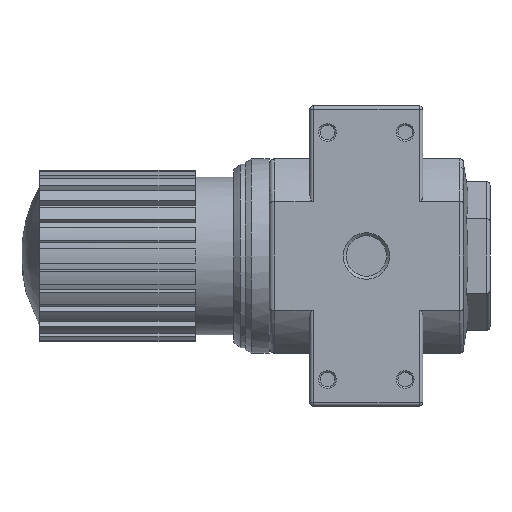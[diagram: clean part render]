
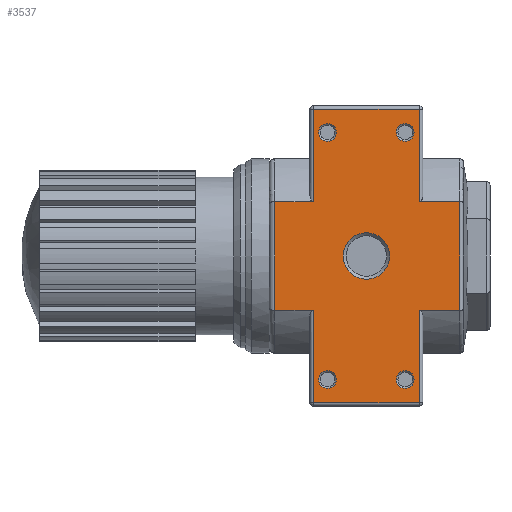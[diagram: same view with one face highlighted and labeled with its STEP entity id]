
A CAD part, left-side view. The second image highlights one B-rep face of the part: STEP entity #3537.
In plain terms, the highlighted planar face has unit normal (-1, 0, 0).
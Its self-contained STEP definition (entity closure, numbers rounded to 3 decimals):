
#55=FACE_BOUND('',#1024,.T.);
#56=FACE_BOUND('',#1025,.T.);
#57=FACE_BOUND('',#1026,.T.);
#58=FACE_BOUND('',#1027,.T.);
#59=FACE_BOUND('',#1028,.T.);
#118=LINE('',#5472,#427);
#119=LINE('',#5477,#428);
#122=LINE('',#5528,#431);
#123=LINE('',#5557,#432);
#124=LINE('',#5560,#433);
#126=LINE('',#5568,#435);
#127=LINE('',#5570,#436);
#128=LINE('',#5571,#437);
#129=LINE('',#5572,#438);
#130=LINE('',#5574,#439);
#131=LINE('',#5576,#440);
#132=LINE('',#5577,#441);
#427=VECTOR('',#4271,1000.);
#428=VECTOR('',#4276,1000.);
#431=VECTOR('',#4291,1000.);
#432=VECTOR('',#4296,1000.);
#433=VECTOR('',#4301,1000.);
#435=VECTOR('',#4309,1000.);
#436=VECTOR('',#4310,1000.);
#437=VECTOR('',#4311,1000.);
#438=VECTOR('',#4312,1000.);
#439=VECTOR('',#4313,1000.);
#440=VECTOR('',#4314,1000.);
#441=VECTOR('',#4315,1000.);
#805=FACE_OUTER_BOUND('',#1023,.T.);
#1023=EDGE_LOOP('',(#2396,#2397,#2398,#2399,#2400,#2401,#2402,#2403,#2404,
#2405,#2406,#2407));
#1024=EDGE_LOOP('',(#2408));
#1025=EDGE_LOOP('',(#2409));
#1026=EDGE_LOOP('',(#2410));
#1027=EDGE_LOOP('',(#2411));
#1028=EDGE_LOOP('',(#2412));
#1261=CIRCLE('',#3807,6.578);
#1262=CIRCLE('',#3808,2.5);
#1263=CIRCLE('',#3809,2.5);
#1264=CIRCLE('',#3810,2.5);
#1265=CIRCLE('',#3811,2.5);
#1475=VERTEX_POINT('',#5458);
#1476=VERTEX_POINT('',#5471);
#1477=VERTEX_POINT('',#5475);
#1478=VERTEX_POINT('',#5476);
#1483=VERTEX_POINT('',#5526);
#1484=VERTEX_POINT('',#5527);
#1485=VERTEX_POINT('',#5543);
#1486=VERTEX_POINT('',#5556);
#1489=VERTEX_POINT('',#5567);
#1490=VERTEX_POINT('',#5569);
#1491=VERTEX_POINT('',#5573);
#1492=VERTEX_POINT('',#5575);
#1493=VERTEX_POINT('',#5578);
#1494=VERTEX_POINT('',#5580);
#1495=VERTEX_POINT('',#5582);
#1496=VERTEX_POINT('',#5584);
#1497=VERTEX_POINT('',#5586);
#1821=EDGE_CURVE('',#1476,#1475,#118,.T.);
#1823=EDGE_CURVE('',#1477,#1478,#119,.T.);
#1832=EDGE_CURVE('',#1483,#1484,#122,.F.);
#1836=EDGE_CURVE('',#1486,#1485,#123,.F.);
#1838=EDGE_CURVE('',#1484,#1476,#124,.T.);
#1842=EDGE_CURVE('',#1475,#1489,#126,.T.);
#1843=EDGE_CURVE('',#1489,#1490,#127,.T.);
#1844=EDGE_CURVE('',#1477,#1490,#128,.T.);
#1845=EDGE_CURVE('',#1486,#1478,#129,.T.);
#1846=EDGE_CURVE('',#1491,#1485,#130,.T.);
#1847=EDGE_CURVE('',#1491,#1492,#131,.F.);
#1848=EDGE_CURVE('',#1492,#1483,#132,.T.);
#1849=EDGE_CURVE('',#1493,#1493,#1261,.T.);
#1850=EDGE_CURVE('',#1494,#1494,#1262,.T.);
#1851=EDGE_CURVE('',#1495,#1495,#1263,.T.);
#1852=EDGE_CURVE('',#1496,#1496,#1264,.T.);
#1853=EDGE_CURVE('',#1497,#1497,#1265,.T.);
#2396=ORIENTED_EDGE('',*,*,#1842,.T.);
#2397=ORIENTED_EDGE('',*,*,#1843,.T.);
#2398=ORIENTED_EDGE('',*,*,#1844,.F.);
#2399=ORIENTED_EDGE('',*,*,#1823,.T.);
#2400=ORIENTED_EDGE('',*,*,#1845,.F.);
#2401=ORIENTED_EDGE('',*,*,#1836,.T.);
#2402=ORIENTED_EDGE('',*,*,#1846,.F.);
#2403=ORIENTED_EDGE('',*,*,#1847,.T.);
#2404=ORIENTED_EDGE('',*,*,#1848,.T.);
#2405=ORIENTED_EDGE('',*,*,#1832,.T.);
#2406=ORIENTED_EDGE('',*,*,#1838,.T.);
#2407=ORIENTED_EDGE('',*,*,#1821,.T.);
#2408=ORIENTED_EDGE('',*,*,#1849,.T.);
#2409=ORIENTED_EDGE('',*,*,#1850,.F.);
#2410=ORIENTED_EDGE('',*,*,#1851,.T.);
#2411=ORIENTED_EDGE('',*,*,#1852,.F.);
#2412=ORIENTED_EDGE('',*,*,#1853,.T.);
#3413=PLANE('',#3806);
#3537=ADVANCED_FACE('',(#805,#55,#56,#57,#58,#59),#3413,.F.);
#3806=AXIS2_PLACEMENT_3D('',#5566,#4307,#4308);
#3807=AXIS2_PLACEMENT_3D('',#5579,#4316,#4317);
#3808=AXIS2_PLACEMENT_3D('',#5581,#4318,#4319);
#3809=AXIS2_PLACEMENT_3D('',#5583,#4320,#4321);
#3810=AXIS2_PLACEMENT_3D('',#5585,#4322,#4323);
#3811=AXIS2_PLACEMENT_3D('',#5587,#4324,#4325);
#4271=DIRECTION('',(0.,0.,1.));
#4276=DIRECTION('',(0.,0.,1.));
#4291=DIRECTION('',(0.,0.,1.));
#4296=DIRECTION('',(0.,0.,1.));
#4301=DIRECTION('',(0.,-1.,0.));
#4307=DIRECTION('center_axis',(1.,0.,0.));
#4308=DIRECTION('ref_axis',(0.,0.,-1.));
#4309=DIRECTION('',(0.,-1.,0.));
#4310=DIRECTION('',(0.,0.,1.));
#4311=DIRECTION('',(0.,-1.,0.));
#4312=DIRECTION('',(0.,-1.,0.));
#4313=DIRECTION('',(0.,-1.,0.));
#4314=DIRECTION('',(0.,0.,1.));
#4315=DIRECTION('',(0.,-1.,0.));
#4316=DIRECTION('center_axis',(1.,0.,0.));
#4317=DIRECTION('ref_axis',(0.,0.,-1.));
#4318=DIRECTION('center_axis',(-1.,0.,0.));
#4319=DIRECTION('ref_axis',(0.,0.,1.));
#4320=DIRECTION('center_axis',(1.,0.,0.));
#4321=DIRECTION('ref_axis',(0.,0.,-1.));
#4322=DIRECTION('center_axis',(-1.,0.,0.));
#4323=DIRECTION('ref_axis',(0.,0.,1.));
#4324=DIRECTION('center_axis',(1.,0.,0.));
#4325=DIRECTION('ref_axis',(0.,0.,-1.));
#5458=CARTESIAN_POINT('',(0.,1.,-57.862));
#5471=CARTESIAN_POINT('',(0.,1.,-84.));
#5472=CARTESIAN_POINT('',(0.,1.,-84.));
#5475=CARTESIAN_POINT('',(0.,1.,-27.138));
#5476=CARTESIAN_POINT('',(0.,1.,-1.));
#5477=CARTESIAN_POINT('',(0.,1.,-84.));
#5526=CARTESIAN_POINT('',(0.,31.,-57.862));
#5527=CARTESIAN_POINT('',(0.,31.,-84.));
#5528=CARTESIAN_POINT('',(0.,31.,-84.));
#5543=CARTESIAN_POINT('',(0.,31.,-27.138));
#5556=CARTESIAN_POINT('',(0.,31.,-1.));
#5557=CARTESIAN_POINT('',(0.,31.,-84.));
#5560=CARTESIAN_POINT('',(0.,32.,-84.));
#5566=CARTESIAN_POINT('Origin',(0.,32.,-84.));
#5567=CARTESIAN_POINT('',(0.,-10.5,-57.862));
#5568=CARTESIAN_POINT('',(0.,43.5,-57.862));
#5569=CARTESIAN_POINT('',(0.,-10.5,-27.138));
#5570=CARTESIAN_POINT('',(0.,-10.5,-84.));
#5571=CARTESIAN_POINT('',(0.,43.5,-27.138));
#5572=CARTESIAN_POINT('',(0.,32.,-1.));
#5573=CARTESIAN_POINT('',(0.,42.,-27.138));
#5574=CARTESIAN_POINT('',(0.,43.5,-27.138));
#5575=CARTESIAN_POINT('',(0.,42.,-57.862));
#5576=CARTESIAN_POINT('',(0.,42.,-57.862));
#5577=CARTESIAN_POINT('',(0.,43.5,-57.862));
#5578=CARTESIAN_POINT('',(0.,16.,-49.079));
#5579=CARTESIAN_POINT('Origin',(0.,16.,-42.5));
#5580=CARTESIAN_POINT('',(0.,27.,-10.));
#5581=CARTESIAN_POINT('Origin',(0.,27.,-7.5));
#5582=CARTESIAN_POINT('',(0.,5.,-10.));
#5583=CARTESIAN_POINT('Origin',(0.,5.,-7.5));
#5584=CARTESIAN_POINT('',(0.,27.,-80.));
#5585=CARTESIAN_POINT('Origin',(0.,27.,-77.5));
#5586=CARTESIAN_POINT('',(0.,5.,-80.));
#5587=CARTESIAN_POINT('Origin',(0.,5.,-77.5));
